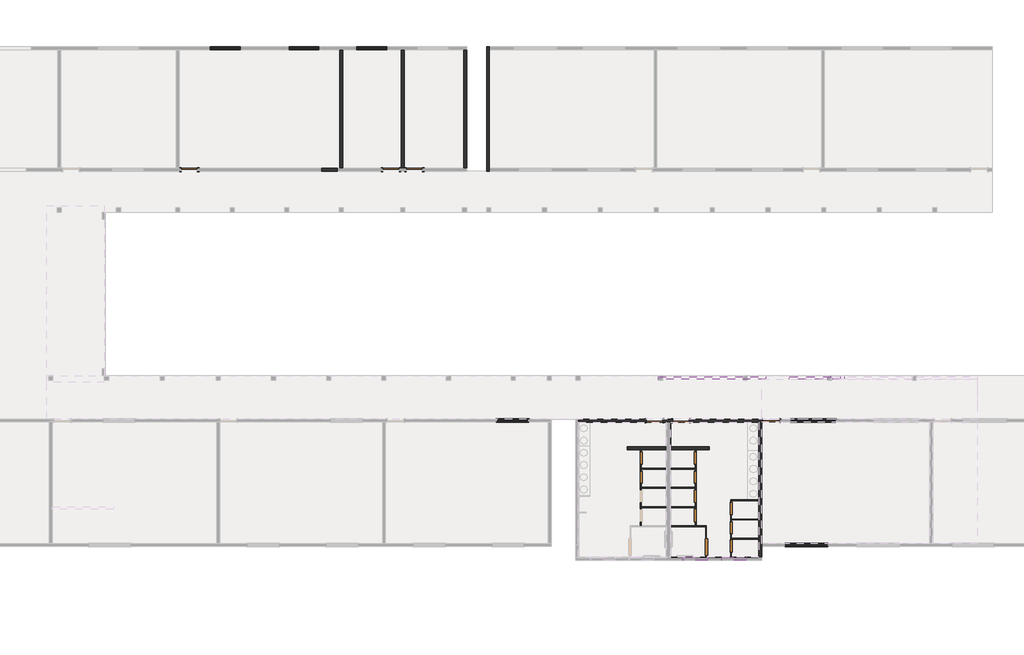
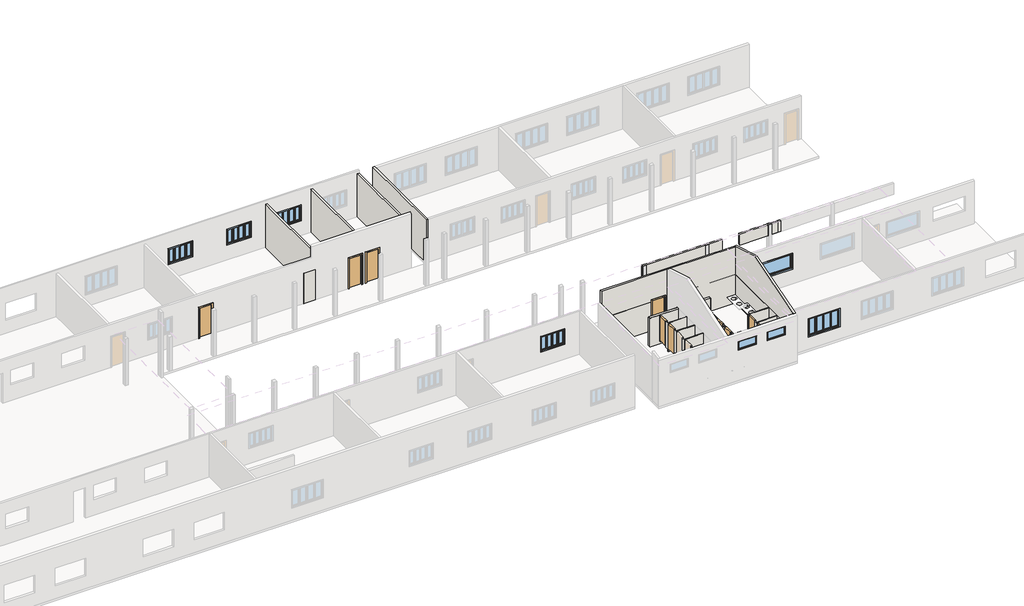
# One storey, part 3 of 5: 40 walls, 16 doors, 8 windows.
"""IFC4 building model written with IfcOpenShell, lengths in millimetres."""

from ifc_helpers import new_model, si_unit, frame, origin, origin_with_axes, place, context, project, spatial, polyline, outline, extrude, faceted_brep, transform, mapped, element, save
from components import m_single_flush_0800_x_2100mm_0fb022da, m_single_flush_0800_x_2100mm_21ec692d, m_single_flush_0813_x_2134mm_3ea254d8, m_single_flush_0813_x_2134mm_1bf23ccc, porta_sanitario_0600_x_2100mm_b459be9e, porta_sanitario_0600_x_2100mm_3094f655, porta_sanitario_08013_x_200134mm_2_4930843f, casement_quad_w_trim_1500_x_1000_mm_b7d6dd6f, casement_quad_w_trim_1500_x_1000_mm_8fcab8cd, casement_quad_w_trim_2000_x_1000_mm_c4cc244c, janela_93b8da09, transom_with_trim_2100_x_100mm_c4035aed

model = new_model("IFC4")

# Units and contexts
model_context = context("Model", 3, world=origin())
ifc_project = project(units=[si_unit("LENGTHUNIT", "METRE", prefix="MILLI")], contexts=[model_context])

# Site, building, storey
site = spatial("IfcSite", under=ifc_project)
building = spatial("IfcBuilding", under=site)
storey = spatial("IfcBuildingStorey", under=building, Name="Planta de implantação", Elevation=0.0)

# Doors
placement = place(None, origin())
m_single_flush_0800_x_2100mm_shape = m_single_flush_0800_x_2100mm_0fb022da(model_context)
element("IfcDoor", 1, ObjectType="M_Single-Flush : 0800 x 2100mm", at=placement, inside=storey, context=model_context, shape_type="MappedRepresentation", body=[
    mapped(m_single_flush_0800_x_2100mm_shape, transform((10269.7647365, -10453.3222718, 0.0), x_axis=(1.0, 0.0, 0.0), y_axis=(0.0, 1.0, 0.0), z_axis=(0.0, 0.0, 1.0))),
])
element("IfcDoor", 2, ObjectType="M_Single-Flush : 0800 x 2100mm", at=placement, inside=storey, context=model_context, shape_type="MappedRepresentation", body=[
    mapped(m_single_flush_0800_x_2100mm_shape, transform((28814.7647365, -22683.3222718, 0.0), x_axis=(-1.0, 0.0, 0.0), y_axis=(0.0, -1.0, 0.0), z_axis=(0.0, 0.0, 1.0))),
])
m_single_flush_0800_x_2100mm_2_shape = m_single_flush_0800_x_2100mm_21ec692d(model_context)
element("IfcDoor", 3, ObjectType="M_Single-Flush : 0800 x 2100mm", at=placement, inside=storey, context=model_context, shape_type="MappedRepresentation", body=[
    mapped(m_single_flush_0800_x_2100mm_2_shape, transform((419.7647365, -10453.3222718, 0.0), x_axis=(-1.0, 0.0, 0.0), y_axis=(0.0, -1.0, 0.0), z_axis=(0.0, 0.0, 1.0))),
])
element("IfcDoor", 4, ObjectType="M_Single-Flush : 0800 x 2100mm", at=placement, inside=storey, context=model_context, shape_type="MappedRepresentation", body=[
    mapped(m_single_flush_0800_x_2100mm_2_shape, transform((11399.7647365, -10453.3222718, 0.0), x_axis=(-1.0, 0.0, 0.0), y_axis=(0.0, -1.0, 0.0), z_axis=(0.0, 0.0, 1.0))),
])
m_single_flush_0813_x_2134mm_shape = m_single_flush_0813_x_2134mm_3ea254d8(model_context)
element("IfcDoor", 5, ObjectType="M_Single-Flush : 0813 x 2134mm", at=placement, inside=storey, context=model_context, shape_type="MappedRepresentation", body=[
    mapped(m_single_flush_0813_x_2134mm_shape, transform((24416.2647365, -22693.3222718, 0.0), x_axis=(-1.0, 0.0, 0.0), y_axis=(0.0, -1.0, 0.0), z_axis=(0.0, 0.0, 1.0))),
])
m_single_flush_0813_x_2134mm_2_shape = m_single_flush_0813_x_2134mm_1bf23ccc(model_context)
element("IfcDoor", 6, ObjectType="M_Single-Flush : 0813 x 2134mm", at=placement, inside=storey, context=model_context, shape_type="MappedRepresentation", body=[
    mapped(m_single_flush_0813_x_2134mm_2_shape, transform((23133.2647365, -22693.3222718, 0.0), x_axis=(1.0, 0.0, 0.0), y_axis=(0.0, 1.0, 0.0), z_axis=(0.0, 0.0, 1.0))),
])
porta_sanitario_0600_x_2100mm_shape = porta_sanitario_0600_x_2100mm_b459be9e(model_context)
element("IfcDoor", 7, ObjectType="Porta-sanitario : 0600 x 2100mm", at=placement, inside=storey, context=model_context, shape_type="MappedRepresentation", body=[
    mapped(porta_sanitario_0600_x_2100mm_shape, transform((25139.7647365, -24518.3222718, 0.0), x_axis=(0.0, 1.0, 0.0), y_axis=(-1.0, 0.0, 0.0), z_axis=(0.0, 0.0, 1.0))),
])
element("IfcDoor", 8, ObjectType="Porta-sanitario : 0600 x 2100mm", at=placement, inside=storey, context=model_context, shape_type="MappedRepresentation", body=[
    mapped(porta_sanitario_0600_x_2100mm_shape, transform((25139.7647365, -25458.3222718, 0.0), x_axis=(0.0, 1.0, 0.0), y_axis=(-1.0, 0.0, 0.0), z_axis=(0.0, 0.0, 1.0))),
])
element("IfcDoor", 9, ObjectType="Porta-sanitario : 0600 x 2100mm", at=placement, inside=storey, context=model_context, shape_type="MappedRepresentation", body=[
    mapped(porta_sanitario_0600_x_2100mm_shape, transform((25139.7647365, -26388.3222718, 0.0), x_axis=(0.0, 1.0, 0.0), y_axis=(-1.0, 0.0, 0.0), z_axis=(0.0, 0.0, 1.0))),
])
element("IfcDoor", 10, ObjectType="Porta-sanitario : 0600 x 2100mm", at=placement, inside=storey, context=model_context, shape_type="MappedRepresentation", body=[
    mapped(porta_sanitario_0600_x_2100mm_shape, transform((26854.7647365, -28818.3222718, 0.0), x_axis=(0.0, -1.0, 0.0), y_axis=(1.0, 0.0, 0.0), z_axis=(0.0, 0.0, 1.0))),
])
element("IfcDoor", 11, ObjectType="Porta-sanitario : 0600 x 2100mm", at=placement, inside=storey, context=model_context, shape_type="MappedRepresentation", body=[
    mapped(porta_sanitario_0600_x_2100mm_shape, transform((26854.7647365, -27928.3222718, 0.0), x_axis=(0.0, -1.0, 0.0), y_axis=(1.0, 0.0, 0.0), z_axis=(0.0, 0.0, 1.0))),
])
element("IfcDoor", 12, ObjectType="Porta-sanitario : 0600 x 2100mm", at=placement, inside=storey, context=model_context, shape_type="MappedRepresentation", body=[
    mapped(porta_sanitario_0600_x_2100mm_shape, transform((26854.7647365, -26988.3222718, 0.0), x_axis=(0.0, -1.0, 0.0), y_axis=(1.0, 0.0, 0.0), z_axis=(0.0, 0.0, 1.0))),
])
element("IfcDoor", 13, ObjectType="Porta-sanitario : 0600 x 2100mm", at=placement, inside=storey, context=model_context, shape_type="MappedRepresentation", body=[
    mapped(porta_sanitario_0600_x_2100mm_shape, transform((25139.7647365, -27328.3222718, 0.0), x_axis=(0.0, 1.0, 0.0), y_axis=(-1.0, 0.0, 0.0), z_axis=(0.0, 0.0, 1.0))),
])
porta_sanitario_0600_x_2100mm_2_shape = porta_sanitario_0600_x_2100mm_3094f655(model_context)
element("IfcDoor", 14, ObjectType="Porta-sanitario : 0600 x 2100mm", at=placement, inside=storey, context=model_context, shape_type="MappedRepresentation", body=[
    mapped(porta_sanitario_0600_x_2100mm_2_shape, transform((22449.7647365, -24518.3222718, 0.0), x_axis=(0.0, 1.0, 0.0), y_axis=(-1.0, 0.0, 0.0), z_axis=(0.0, 0.0, 1.0))),
])
element("IfcDoor", 15, ObjectType="Porta-sanitario : 0600 x 2100mm", at=placement, inside=storey, context=model_context, shape_type="MappedRepresentation", body=[
    mapped(porta_sanitario_0600_x_2100mm_2_shape, transform((22449.7647365, -25458.3222718, 0.0), x_axis=(0.0, 1.0, 0.0), y_axis=(-1.0, 0.0, 0.0), z_axis=(0.0, 0.0, 1.0))),
])
porta_sanitario_08013_x_200134mm_2_shape = porta_sanitario_08013_x_200134mm_2_4930843f(model_context)
element("IfcDoor", 16, ObjectType="Porta-sanitario : 08013 x 200134mm 2", at=placement, inside=storey, context=model_context, shape_type="MappedRepresentation", body=[
    mapped(porta_sanitario_08013_x_200134mm_2_shape, transform((25639.7647365, -28871.8222718, 0.0), x_axis=(0.0, -1.0, 0.0), y_axis=(1.0, 0.0, 0.0), z_axis=(0.0, 0.0, 1.0))),
])

# Walls
element("IfcWall", 17, ObjectType="Generic - azuleijo", at=placement, inside=storey, context=model_context, shape_type="SweptSolid", body=[
    extrude(outline(polyline([(28214.7647365, -22768.3222718), (28214.7647365, -29368.3222718), (28204.7647365, -29368.3222718), (28204.7647365, -22768.3222718), (28214.7647365, -22768.3222718)])), origin_with_axes(), (0.0, 0.0, 1.0), 2000.0),
])
element("IfcWall", 18, ObjectType="Generic - azuleijo", at=placement, inside=storey, context=model_context, shape_type="SweptSolid", body=[
    extrude(outline(polyline([(23909.7647365, -29368.3222718), (28214.7647365, -29368.3222718), (28214.7647365, -29378.3222718), (23909.7647365, -29378.3222718), (23909.7647365, -29368.3222718)])), origin_with_axes(), (0.0, 0.0, 1.0), 2000.0),
])
element("IfcWall", 19, ObjectType="Generic - azuleijo", at=placement, inside=storey, context=model_context, shape_type="SweptSolid", body=[
    extrude(outline(polyline([(24757.7647365, -22758.3222718), (28214.7647365, -22758.3222718), (28214.7647365, -22768.3222718), (24757.7647365, -22768.3222718), (24757.7647365, -22758.3222718)])), origin_with_axes(), (0.0, 0.0, 1.0), 2000.0),
])
element("IfcWall", 20, ObjectType="Generic - azuleijo", at=placement, inside=storey, context=model_context, shape_type="SweptSolid", body=[
    extrude(outline(polyline([(23909.7647365, -22758.3222718), (23969.7647365, -22758.3222718), (23969.7647365, -22768.3222718), (23909.7647365, -22768.3222718), (23909.7647365, -22758.3222718)])), origin_with_axes(), (0.0, 0.0, 1.0), 2000.0),
])
element("IfcWall", 21, ObjectType="Generic - azuleijo", at=placement, inside=storey, context=model_context, shape_type="SweptSolid", body=[
    extrude(outline(polyline([(23639.7647365, -22758.3222718), (23709.7647365, -22758.3222718), (23709.7647365, -22768.3222718), (23639.7647365, -22768.3222718), (23639.7647365, -22758.3222718)])), origin_with_axes(), (0.0, 0.0, 1.0), 2000.0),
])
element("IfcWall", 22, ObjectType="Generic - azuleijo", at=placement, inside=storey, context=model_context, shape_type="SweptSolid", body=[
    extrude(outline(polyline([(19409.7647365, -22758.3222718), (22725.0732804, -22758.3222718), (22725.0732804, -22768.3222718), (19409.7647365, -22768.3222718), (19409.7647365, -22758.3222718)])), origin_with_axes(), (0.0, 0.0, 1.0), 2000.0),
])
element("IfcWall", 23, ObjectType="Generic - azuleijo", at=placement, inside=storey, context=model_context, shape_type="Brep", body=[
    faceted_brep([(23914.7647365, -23978.3222718, 0.0), (25784.7647365, -23978.3222718, 0.0), (25794.7647365, -23978.3222718, 0.0), (25794.7647365, -23978.3222718, 2000.0), (25784.7647365, -23978.3222718, 2000.0), (23914.7647365, -23978.3222718, 2000.0), (23914.7647365, -23968.3222718, 0.0), (23914.7647365, -23968.3222718, 2000.0), (25794.7647365, -23968.3222718, 2000.0), (25794.7647365, -23968.3222718, 0.0)], [[[0, 1, 2, 3, 4, 5]], [[6, 7, 8, 9]], [[2, 1, 0, 6, 9]], [[5, 4, 3, 8, 7]], [[3, 2, 9, 8]], [[0, 5, 7, 6]]]),
])
element("IfcWall", 24, ObjectType="Generic - azuleijo", at=placement, inside=storey, context=model_context, shape_type="Brep", body=[
    faceted_brep([(25784.7647365, -23978.3222718, 0.0), (25784.7647365, -24108.3222718, 0.0), (25784.7647365, -24118.3222718, 0.0), (25784.7647365, -24118.3222718, 2000.0), (25784.7647365, -24108.3222718, 2000.0), (25784.7647365, -23978.3222718, 2000.0), (25794.7647365, -23978.3222718, 0.0), (25794.7647365, -23978.3222718, 2000.0), (25794.7647365, -24118.3222718, 2000.0), (25794.7647365, -24118.3222718, 0.0)], [[[0, 1, 2, 3, 4, 5]], [[6, 7, 8, 9]], [[2, 1, 0, 6, 9]], [[5, 4, 3, 8, 7]], [[3, 2, 9, 8]], [[0, 5, 7, 6]]]),
])
element("IfcWall", 25, ObjectType="Generic - azuleijo", at=placement, inside=storey, context=model_context, shape_type="SweptSolid", body=[
    extrude(outline(polyline([(23914.7647365, -24108.3222718), (25784.7647365, -24108.3222718), (25784.7647365, -24118.3222718), (23914.7647365, -24118.3222718), (23914.7647365, -24108.3222718)])), origin_with_axes(), (0.0, 0.0, 1.0), 2000.0),
])
element("IfcWall", 26, ObjectType="Generic - azuleijo", at=placement, inside=storey, context=model_context, shape_type="Brep", body=[
    faceted_brep([(23699.7647365, -24108.3222718, 0.0), (21804.7647365, -24108.3222718, 0.0), (21794.7647365, -24108.3222718, 0.0), (21794.7647365, -24108.3222718, 2000.0), (21804.7647365, -24108.3222718, 2000.0), (23699.7647365, -24108.3222718, 2000.0), (23699.7647365, -24118.3222718, 0.0), (23699.7647365, -24118.3222718, 2000.0), (21794.7647365, -24118.3222718, 2000.0), (21794.7647365, -24118.3222718, 0.0)], [[[0, 1, 2, 3, 4, 5]], [[6, 7, 8, 9]], [[2, 1, 0, 6, 9]], [[5, 4, 3, 8, 7]], [[3, 2, 9, 8]], [[0, 5, 7, 6]]]),
])
element("IfcWall", 27, ObjectType="Generic - azuleijo", at=placement, inside=storey, context=model_context, shape_type="Brep", body=[
    faceted_brep([(21804.7647365, -24108.3222718, 0.0), (21804.7647365, -23978.3222718, 0.0), (21804.7647365, -23968.3222718, 0.0), (21804.7647365, -23968.3222718, 2000.0), (21804.7647365, -23978.3222718, 2000.0), (21804.7647365, -24108.3222718, 2000.0), (21794.7647365, -24108.3222718, 0.0), (21794.7647365, -24108.3222718, 2000.0), (21794.7647365, -23968.3222718, 2000.0), (21794.7647365, -23968.3222718, 0.0)], [[[0, 1, 2, 3, 4, 5]], [[6, 7, 8, 9]], [[2, 1, 0, 6, 9]], [[5, 4, 3, 8, 7]], [[3, 2, 9, 8]], [[0, 5, 7, 6]]]),
])
element("IfcWall", 28, ObjectType="Generic - azuleijo", at=placement, inside=storey, context=model_context, shape_type="SweptSolid", body=[
    extrude(outline(polyline([(23714.7647365, -23978.3222718), (21804.7647365, -23978.3222718), (21804.7647365, -23968.3222718), (23714.7647365, -23968.3222718), (23714.7647365, -23978.3222718)])), origin_with_axes(), (0.0, 0.0, 1.0), 2000.0),
])
element("IfcWall", 29, ObjectType="Generic - azuleijo", at=placement, inside=storey, context=model_context, shape_type="Brep", body=[
    faceted_brep([(23914.7647365, -23978.3222718, 0.0), (23914.7647365, -23968.3222718, 0.0), (23914.7647365, -22768.3222718, 0.0), (23914.7647365, -22768.3222718, 2000.0), (23914.7647365, -23968.3222718, 2000.0), (23914.7647365, -23978.3222718, 2000.0), (23904.7647365, -23978.3222718, 0.0), (23904.7647365, -23978.3222718, 2000.0), (23904.7647365, -22768.3222718, 2000.0), (23904.7647365, -22768.3222718, 0.0), (23909.7647365, -23978.3222718, 0.0), (23909.7647365, -22768.3222718, 2000.0), (23909.7647365, -23978.3222718, 2000.0)], [[[0, 1, 2, 3, 4, 5]], [[6, 7, 8, 9]], [[2, 1, 0, 10, 6, 9]], [[5, 4, 3, 11, 8, 7, 12]], [[0, 5, 12, 7, 6, 10]], [[3, 2, 9, 8, 11]]]),
])
element("IfcWall", 30, ObjectType="Generic - azuleijo", at=placement, inside=storey, context=model_context, shape_type="Brep", body=[
    faceted_brep([(23724.7647365, -23978.3222718, 0.0), (23724.7647365, -22768.3222718, 0.0), (23724.7647365, -22768.3222718, 2000.0), (23724.7647365, -23978.3222718, 2000.0), (23714.7647365, -23978.3222718, 0.0), (23714.7647365, -23978.3222718, 2000.0), (23714.7647365, -23968.3222718, 2000.0), (23714.7647365, -22768.3222718, 2000.0), (23714.7647365, -22768.3222718, 0.0), (23714.7647365, -23968.3222718, 0.0)], [[[0, 1, 2, 3]], [[4, 5, 6, 7, 8, 9]], [[1, 0, 4, 9, 8]], [[3, 2, 7, 6, 5]], [[0, 3, 5, 4]], [[2, 1, 8, 7]]]),
])
element("IfcWall", 31, ObjectType="Generic - 130mm", at=placement, inside=storey, context=model_context, shape_type="SweptSolid", body=[
    extrude(outline(polyline([(7769.7647365, -10388.3222718), (7769.7647365, -4588.3222718), (7899.7647365, -4588.3222718), (7899.7647365, -10388.3222718), (7769.7647365, -10388.3222718)])), origin_with_axes(), (0.0, 0.0, 1.0), 3000.0),
])
element("IfcWall", 32, ObjectType="Generic - 130mm", at=placement, inside=storey, context=model_context, shape_type="SweptSolid", body=[
    extrude(outline(polyline([(10769.7647365, -10388.3222718), (10769.7647365, -4588.3222718), (10899.7647365, -4588.3222718), (10899.7647365, -10388.3222718), (10769.7647365, -10388.3222718)])), origin_with_axes(), (0.0, 0.0, 1.0), 3000.0),
])
element("IfcWall", 33, ObjectType="Generic - 130mm", at=placement, inside=storey, context=model_context, shape_type="SweptSolid", body=[
    extrude(outline(polyline([(13819.7647365, -10388.3222718), (13819.7647365, -4588.3222718), (13949.7647365, -4588.3222718), (13949.7647365, -10388.3222718), (13819.7647365, -10388.3222718)])), origin_with_axes(), (0.0, 0.0, 1.0), 3000.0),
])
element("IfcWall", 34, ObjectType="Generic - 130mm", at=placement, inside=storey, context=model_context, shape_type="Brep", body=[
    faceted_brep([(14929.7647365, -4458.3222718, 0.0), (14929.7647365, -10518.3222718, 0.0), (14929.7647365, -10518.3222718, 3000.0), (14929.7647365, -4458.3222718, 3000.0), (15059.7647365, -4458.3222718, 0.0), (15059.7647365, -4458.3222718, 3000.0), (15059.7647365, -4588.3222718, 3000.0), (15059.7647365, -10388.3222718, 3000.0), (15059.7647365, -10518.3222718, 3000.0), (15059.7647365, -10518.3222718, 0.0), (15059.7647365, -10388.3222718, 0.0), (15059.7647365, -4588.3222718, 0.0)], [[[0, 1, 2, 3]], [[4, 5, 6, 7, 8, 9, 10, 11]], [[1, 0, 4, 11, 10, 9]], [[3, 2, 8, 7, 6, 5]], [[0, 3, 5, 4]], [[2, 1, 9, 8]]]),
])
element("IfcWall", 35, ObjectType="Generic - 130mm", at=placement, inside=storey, context=model_context, shape_type="SweptSolid", body=[
    extrude(outline(polyline([(32396.4314031, -20683.3222718), (31572.2647365, -20683.3222718), (31572.2647365, -20553.3222718), (32396.4314031, -20553.3222718), (32396.4314031, -20683.3222718)])), frame((0.0, 0.0, 2250.0), z_axis=(0.0, 0.0, 1.0), x_axis=(1.0, 0.0, 0.0)), (0.0, 0.0, 1.0), 750.0),
])
element("IfcWall", 36, ObjectType="Generic - 130mm", at=placement, inside=storey, context=model_context, shape_type="SweptSolid", body=[
    extrude(outline(polyline([(29698.0980698, -20553.3222718), (32196.4314031, -20553.3222718), (32196.4314031, -20683.3222718), (29698.0980698, -20683.3222718), (29698.0980698, -20553.3222718)])), frame((0.0, 0.0, 2250.0), z_axis=(0.0, 0.0, 1.0), x_axis=(1.0, 0.0, 0.0)), (0.0, 0.0, 1.0), 750.0),
])
element("IfcWall", 37, ObjectType="Generic - 130mm", at=placement, inside=storey, context=model_context, shape_type="SweptSolid", body=[
    extrude(outline(polyline([(28554.7647365, -20683.3222718), (23317.2647365, -20683.3222718), (23317.2647365, -20553.3222718), (28554.7647365, -20553.3222718), (28554.7647365, -20683.3222718)])), frame((0.0, 0.0, 2250.0), z_axis=(0.0, 0.0, 1.0), x_axis=(1.0, 0.0, 0.0)), (0.0, 0.0, 1.0), 750.0),
])
element("IfcWall", 38, ObjectType="Generic - 130mm", at=placement, inside=storey, context=model_context, shape_type="SweptSolid", body=[
    extrude(outline(polyline([(6869.7647365, -10518.3222718), (6869.7647365, -10388.3222718), (7669.7647365, -10388.3222718), (7669.7647365, -10518.3222718), (6869.7647365, -10518.3222718)])), origin_with_axes(), (0.0, 0.0, 1.0), 2100.0),
])
element("IfcWall", 39, ObjectType="Generic - 150mm", at=placement, inside=storey, context=model_context, shape_type="Brep", body=[
    faceted_brep([(28364.7647365, -29368.3222718, 0.0), (28364.7647365, -28828.3222718, 0.0), (28364.7647365, -28698.3222718, 0.0), (28364.7647365, -22748.3222718, 0.0), (28364.7647365, -22618.3222718, 0.0), (28364.7647365, -22618.3222718, 3000.0), (28364.7647365, -22618.3222718, 3870.0), (28364.7647365, -24948.3222718, 4569.0), (28364.7647365, -29368.3222718, 3243.0), (28214.7647365, -29368.3222718, 0.0), (28214.7647365, -29368.3222718, 2000.0), (28214.7647365, -29368.3222718, 3243.0), (28214.7647365, -24948.3222718, 4569.0), (28214.7647365, -22768.3222718, 3915.0), (28214.7647365, -22618.3222718, 3870.0), (28214.7647365, -22618.3222718, 0.0), (28214.7647365, -22758.3222718, 0.0), (28214.7647365, -22768.3222718, 0.0), (28214.7647365, -26558.3222718, 0.0), (28214.7647365, -26598.3222718, 0.0), (28214.7647365, -27498.3222718, 0.0), (28214.7647365, -27538.3222718, 0.0), (28214.7647365, -28438.3222718, 0.0), (28214.7647365, -28478.3222718, 0.0)], [[[0, 1, 2, 3, 4, 5, 6, 7, 8]], [[9, 10, 11, 12, 13, 14, 15, 16, 17, 18, 19, 20, 21, 22, 23]], [[4, 3, 2, 1, 0, 9, 23, 22, 21, 20, 19, 18, 17, 16, 15]], [[0, 8, 11, 10, 9]], [[4, 15, 14, 6, 5]], [[8, 7, 12, 11]], [[7, 6, 14, 13, 12]]]),
])
element("IfcWall", 40, ObjectType="Generic - 150mm", at=placement, inside=storey, context=model_context, shape_type="Brep", body=[
    faceted_brep([(28214.7647365, -22618.3222718, 3870.0), (28214.7647365, -22618.3222718, 0.0), (24816.3147365, -22618.3222718, 0.0), (24816.3147365, -22618.3222718, 2100.0), (24016.2147365, -22618.3222718, 2100.0), (24016.2147365, -22618.3222718, 0.0), (23533.3147365, -22618.3222718, 0.0), (23533.3147365, -22618.3222718, 2100.0), (22733.2147365, -22618.3222718, 2100.0), (22733.2147365, -22618.3222718, 0.0), (19409.7647365, -22618.3222718, 0.0), (19409.7647365, -22618.3222718, 3000.0), (19409.7647365, -22618.3222718, 3870.0), (28214.7647365, -22768.3222718, 0.0), (28214.7647365, -22768.3222718, 2000.0), (28214.7647365, -22768.3222718, 3915.0), (23909.7647365, -22768.3222718, 3915.0), (23709.7647365, -22768.3222718, 3915.0), (19409.7647365, -22768.3222718, 3915.0), (19409.7647365, -22768.3222718, 2000.0), (19409.7647365, -22768.3222718, 0.0), (19419.7647365, -22768.3222718, 0.0), (22733.2147365, -22768.3222718, 0.0), (22733.2147365, -22768.3222718, 2100.0), (23533.3147365, -22768.3222718, 2100.0), (23533.3147365, -22768.3222718, 0.0), (23709.7647365, -22768.3222718, 0.0), (23714.7647365, -22768.3222718, 0.0), (23724.7647365, -22768.3222718, 0.0), (23904.7647365, -22768.3222718, 0.0), (23914.7647365, -22768.3222718, 0.0), (24016.2147365, -22768.3222718, 0.0), (24016.2147365, -22768.3222718, 2100.0), (24816.3147365, -22768.3222718, 2100.0), (24816.3147365, -22768.3222718, 0.0), (28204.7647365, -22768.3222718, 0.0)], [[[0, 1, 2, 3, 4, 5, 6, 7, 8, 9, 10, 11, 12]], [[13, 14, 15, 16, 17, 18, 19, 20, 21, 22, 23, 24, 25, 26, 27, 28, 29, 30, 31, 32, 33, 34, 35]], [[1, 13, 35, 34, 2]], [[20, 10, 9, 22, 21]], [[5, 31, 30, 29, 28, 27, 26, 25, 6]], [[13, 1, 0, 15, 14]], [[12, 11, 10, 20, 19, 18]], [[0, 12, 18, 17, 16, 15]], [[4, 32, 31, 5]], [[32, 4, 3, 33]], [[33, 3, 2, 34]], [[24, 7, 6, 25]], [[7, 24, 23, 8]], [[8, 23, 22, 9]]]),
])
element("IfcWall", 41, ObjectType="Generic - 150mm", at=placement, inside=storey, context=model_context, shape_type="Brep", body=[
    faceted_brep([(23909.7647365, -24118.3222718, 0.0), (25784.7647365, -24118.3222718, 0.0), (25784.7647365, -24118.3222718, 2000.0), (25159.7647365, -24118.3222718, 2000.0), (25119.7647365, -24118.3222718, 2000.0), (23909.7647365, -24118.3222718, 2000.0), (23909.7647365, -23968.3222718, 0.0), (23909.7647365, -23968.3222718, 2000.0), (25784.7647365, -23968.3222718, 2000.0), (25784.7647365, -23968.3222718, 0.0), (23909.7647365, -24108.3222718, 0.0), (23909.7647365, -23978.3222718, 0.0), (25784.7647365, -23978.3222718, 0.0), (25784.7647365, -23978.3222718, 2000.0)], [[[0, 1, 2, 3, 4, 5]], [[6, 7, 8, 9]], [[1, 0, 10, 11, 6, 9, 12]], [[5, 4, 3, 2, 13, 8, 7]], [[0, 5, 7, 6, 11, 10]], [[2, 1, 12, 9, 8, 13]]]),
])
element("IfcWall", 42, ObjectType="Generic - 150mm", at=placement, inside=storey, context=model_context, shape_type="Brep", body=[
    faceted_brep([(23709.7647365, -23968.3222718, 0.0), (21804.7647365, -23968.3222718, 0.0), (21804.7647365, -23968.3222718, 2000.0), (23709.7647365, -23968.3222718, 2000.0), (23709.7647365, -24118.3222718, 0.0), (23709.7647365, -24118.3222718, 2000.0), (22469.7647365, -24118.3222718, 2000.0), (22429.7647365, -24118.3222718, 2000.0), (21804.7647365, -24118.3222718, 2000.0), (21804.7647365, -24118.3222718, 0.0), (21804.7647365, -24108.3222718, 0.0), (21804.7647365, -24108.3222718, 2000.0)], [[[0, 1, 2, 3]], [[4, 5, 6, 7, 8, 9]], [[1, 0, 4, 9, 10]], [[3, 2, 11, 8, 7, 6, 5]], [[0, 3, 5, 4]], [[2, 1, 10, 9, 8, 11]]]),
])
element("IfcWall", 43, ObjectType="Generic - 40mm", at=placement, inside=storey, context=model_context, shape_type="SweptSolid", body=[
    extrude(outline(polyline([(0.0, 23909.7647365), (0.0, 24014.1609434), (200.0, 24214.1609434), (200.0, 24809.7647365), (0.0, 25009.7647365), (0.0, 25119.7647365), (2000.0, 25119.7647365), (2000.0, 23909.7647365), (0.0, 23909.7647365)])), frame((0.0, -26938.3222718, 0.0), z_axis=(0.0, 1.0, 0.0), x_axis=(0.0, 0.0, 1.0)), (0.0, 0.0, 1.0), 40.0),
])
element("IfcWall", 44, ObjectType="Generic - 40mm", at=placement, inside=storey, context=model_context, shape_type="SweptSolid", body=[
    extrude(outline(polyline([(0.0, 23909.7647365), (0.0, 24014.1609434), (200.0, 24214.1609434), (200.0, 24809.7647365), (0.0, 25009.7647365), (0.0, 25119.7647365), (2000.0, 25119.7647365), (2000.0, 23909.7647365), (0.0, 23909.7647365)])), frame((0.0, -25998.3222718, 0.0), z_axis=(0.0, 1.0, 0.0), x_axis=(0.0, 0.0, 1.0)), (0.0, 0.0, 1.0), 40.0),
])
element("IfcWall", 45, ObjectType="Generic - 40mm", at=placement, inside=storey, context=model_context, shape_type="SweptSolid", body=[
    extrude(outline(polyline([(0.0, 23909.7647365), (0.0, 24014.1609434), (200.0, 24214.1609434), (200.0, 24809.7647365), (0.0, 25009.7647365), (0.0, 25119.7647365), (2000.0, 25119.7647365), (2000.0, 23909.7647365), (0.0, 23909.7647365)])), frame((0.0, -25058.3222718, 0.0), z_axis=(0.0, 1.0, 0.0), x_axis=(0.0, 0.0, 1.0)), (0.0, 0.0, 1.0), 40.0),
])
element("IfcWall", 46, ObjectType="Generic - 40mm", at=placement, inside=storey, context=model_context, shape_type="Brep", body=[
    faceted_brep([(25119.7647365, -27838.3222718, 200.0), (25119.7647365, -27838.3222718, 2000.0), (25119.7647365, -27628.3222718, 2000.0), (25119.7647365, -27628.3222718, 200.0), (25159.7647365, -27838.3222718, 2000.0), (25159.7647365, -27838.3222718, 200.0), (25159.7647365, -27628.3222718, 200.0), (25159.7647365, -27628.3222718, 2000.0)], [[[0, 1, 2, 3]], [[4, 5, 6, 7]], [[5, 0, 3, 6]], [[1, 4, 7, 2]], [[1, 0, 5, 4]], [[3, 2, 7, 6]]]),
    faceted_brep([(25119.7647365, -24118.3222718, 2000.0), (25119.7647365, -24118.3222718, 200.0), (25119.7647365, -24218.3222718, 200.0), (25119.7647365, -24218.3222718, 2000.0), (25159.7647365, -24118.3222718, 200.0), (25159.7647365, -24118.3222718, 2000.0), (25159.7647365, -24218.3222718, 2000.0), (25159.7647365, -24218.3222718, 200.0)], [[[0, 1, 2, 3]], [[4, 5, 6, 7]], [[1, 4, 7, 2]], [[5, 0, 3, 6]], [[1, 0, 5, 4]], [[3, 2, 7, 6]]]),
    faceted_brep([(25119.7647365, -24818.3222718, 2000.0), (25119.7647365, -24818.3222718, 200.0), (25119.7647365, -25158.3222718, 200.0), (25119.7647365, -25158.3222718, 2000.0), (25119.7647365, -25058.3222718, 2000.0), (25119.7647365, -25018.3222718, 2000.0), (25159.7647365, -24818.3222718, 200.0), (25159.7647365, -24818.3222718, 2000.0), (25159.7647365, -25158.3222718, 2000.0), (25159.7647365, -25158.3222718, 200.0)], [[[0, 1, 2, 3, 4, 5]], [[6, 7, 8, 9]], [[1, 6, 9, 2]], [[7, 0, 5, 4, 3, 8]], [[1, 0, 7, 6]], [[3, 2, 9, 8]]]),
    faceted_brep([(25119.7647365, -25758.3222718, 2000.0), (25119.7647365, -25758.3222718, 200.0), (25119.7647365, -26088.3222718, 200.0), (25119.7647365, -26088.3222718, 2000.0), (25119.7647365, -25998.3222718, 2000.0), (25119.7647365, -25958.3222718, 2000.0), (25159.7647365, -25758.3222718, 200.0), (25159.7647365, -25758.3222718, 2000.0), (25159.7647365, -26088.3222718, 2000.0), (25159.7647365, -26088.3222718, 200.0)], [[[0, 1, 2, 3, 4, 5]], [[6, 7, 8, 9]], [[1, 6, 9, 2]], [[7, 0, 5, 4, 3, 8]], [[1, 0, 7, 6]], [[3, 2, 9, 8]]]),
    faceted_brep([(25119.7647365, -26688.3222718, 2000.0), (25119.7647365, -26688.3222718, 200.0), (25119.7647365, -27028.3222718, 200.0), (25119.7647365, -27028.3222718, 2000.0), (25119.7647365, -26938.3222718, 2000.0), (25119.7647365, -26898.3222718, 2000.0), (25159.7647365, -26688.3222718, 200.0), (25159.7647365, -26688.3222718, 2000.0), (25159.7647365, -27028.3222718, 2000.0), (25159.7647365, -27028.3222718, 200.0)], [[[0, 1, 2, 3, 4, 5]], [[6, 7, 8, 9]], [[1, 6, 9, 2]], [[7, 0, 5, 4, 3, 8]], [[1, 0, 7, 6]], [[3, 2, 9, 8]]]),
])
element("IfcWall", 47, ObjectType="Generic - 40mm", at=placement, inside=storey, context=model_context, shape_type="Brep", body=[
    faceted_brep([(26874.7647365, -26558.3222718, 200.0), (26874.7647365, -26558.3222718, 2000.0), (26874.7647365, -26598.3222718, 2000.0), (26874.7647365, -26688.3222718, 2000.0), (26874.7647365, -26688.3222718, 200.0), (26834.7647365, -26558.3222718, 2000.0), (26834.7647365, -26558.3222718, 200.0), (26834.7647365, -26688.3222718, 200.0), (26834.7647365, -26688.3222718, 2000.0)], [[[0, 1, 2, 3, 4]], [[5, 6, 7, 8]], [[6, 0, 4, 7]], [[1, 5, 8, 3, 2]], [[1, 0, 6, 5]], [[4, 3, 8, 7]]]),
    faceted_brep([(26874.7647365, -29368.3222718, 2000.0), (26874.7647365, -29368.3222718, 200.0), (26874.7647365, -29118.3222718, 200.0), (26874.7647365, -29118.3222718, 2000.0), (26834.7647365, -29368.3222718, 200.0), (26834.7647365, -29368.3222718, 2000.0), (26834.7647365, -29118.3222718, 2000.0), (26834.7647365, -29118.3222718, 200.0)], [[[0, 1, 2, 3]], [[4, 5, 6, 7]], [[1, 4, 7, 2]], [[5, 0, 3, 6]], [[1, 0, 5, 4]], [[3, 2, 7, 6]]]),
    faceted_brep([(26874.7647365, -28518.3222718, 2000.0), (26874.7647365, -28518.3222718, 200.0), (26874.7647365, -28228.3222718, 200.0), (26874.7647365, -28228.3222718, 2000.0), (26874.7647365, -28438.3222718, 2000.0), (26874.7647365, -28478.3222718, 2000.0), (26834.7647365, -28518.3222718, 200.0), (26834.7647365, -28518.3222718, 2000.0), (26834.7647365, -28228.3222718, 2000.0), (26834.7647365, -28228.3222718, 200.0)], [[[0, 1, 2, 3, 4, 5]], [[6, 7, 8, 9]], [[1, 6, 9, 2]], [[7, 0, 5, 4, 3, 8]], [[1, 0, 7, 6]], [[3, 2, 9, 8]]]),
    faceted_brep([(26874.7647365, -27628.3222718, 2000.0), (26874.7647365, -27628.3222718, 200.0), (26874.7647365, -27288.3222718, 200.0), (26874.7647365, -27288.3222718, 2000.0), (26874.7647365, -27498.3222718, 2000.0), (26874.7647365, -27538.3222718, 2000.0), (26834.7647365, -27628.3222718, 200.0), (26834.7647365, -27628.3222718, 2000.0), (26834.7647365, -27288.3222718, 2000.0), (26834.7647365, -27288.3222718, 200.0)], [[[0, 1, 2, 3, 4, 5]], [[6, 7, 8, 9]], [[1, 6, 9, 2]], [[7, 0, 5, 4, 3, 8]], [[1, 0, 7, 6]], [[3, 2, 9, 8]]]),
])
element("IfcWall", 48, ObjectType="Generic - 40mm", at=placement, inside=storey, context=model_context, shape_type="Brep", body=[
    faceted_brep([(26874.7647365, -26598.3222718, 0.0), (26979.3887002, -26598.3222718, 0.0), (27177.3785989, -26598.3222718, 197.9898987), (27912.3785989, -26598.3222718, 197.9898987), (28110.3684976, -26598.3222718, 0.0), (28214.7647365, -26598.3222718, 0.0), (28214.7647365, -26598.3222718, 2000.0), (26874.7647365, -26598.3222718, 2000.0), (26874.7647365, -26558.3222718, 0.0), (26874.7647365, -26558.3222718, 200.0), (26874.7647365, -26558.3222718, 2000.0), (28214.7647365, -26558.3222718, 2000.0), (28214.7647365, -26558.3222718, 0.0), (28110.3684976, -26558.3222718, 0.0), (27912.3785989, -26558.3222718, 197.9898987), (27177.3785989, -26558.3222718, 197.9898987), (26979.3887002, -26558.3222718, 0.0)], [[[0, 1, 2, 3, 4, 5, 6, 7]], [[8, 9, 10, 11, 12, 13, 14, 15, 16]], [[1, 0, 8, 16]], [[2, 1, 16, 15]], [[3, 2, 15, 14]], [[4, 3, 14, 13]], [[5, 4, 13, 12]], [[7, 6, 11, 10]], [[0, 7, 10, 9, 8]], [[6, 5, 12, 11]]]),
])
element("IfcWall", 49, ObjectType="Generic - 40mm", at=placement, inside=storey, context=model_context, shape_type="SweptSolid", body=[
    extrude(outline(polyline([(0.0, 26874.7647365), (0.0, 26984.7647365), (200.0, 27184.7647365), (200.0, 27914.7647365), (0.0, 28114.7647365), (0.0, 28214.7647365), (2000.0, 28214.7647365), (2000.0, 26874.7647365), (0.0, 26874.7647365)])), frame((0.0, -27538.3222718, 0.0), z_axis=(0.0, 1.0, 0.0), x_axis=(0.0, 0.0, 1.0)), (0.0, 0.0, 1.0), 40.0),
])
element("IfcWall", 50, ObjectType="Generic - 40mm", at=placement, inside=storey, context=model_context, shape_type="SweptSolid", body=[
    extrude(outline(polyline([(0.0, 26874.7647365), (0.0, 26984.7647365), (200.0, 27184.7647365), (200.0, 27914.7647365), (0.0, 28114.7647365), (0.0, 28214.7647365), (2000.0, 28214.7647365), (2000.0, 26874.7647365), (0.0, 26874.7647365)])), frame((0.0, -28478.3222718, 0.0), z_axis=(0.0, 1.0, 0.0), x_axis=(0.0, 0.0, 1.0)), (0.0, 0.0, 1.0), 40.0),
])
element("IfcWall", 51, ObjectType="Generic - 40mm", at=placement, inside=storey, context=model_context, shape_type="Brep", body=[
    faceted_brep([(23909.7647365, -27878.3222718, 0.0), (24014.1609753, -27878.3222718, 0.0), (24214.1609753, -27878.3222718, 200.0), (25349.7647365, -27878.3222718, 200.0), (25549.7647365, -27878.3222718, 0.0), (25619.7647365, -27878.3222718, 0.0), (25619.7647365, -27878.3222718, 2000.0), (23909.7647365, -27878.3222718, 2000.0), (23909.7647365, -27838.3222718, 0.0), (23909.7647365, -27838.3222718, 2000.0), (25119.7647365, -27838.3222718, 2000.0), (25159.7647365, -27838.3222718, 2000.0), (25619.7647365, -27838.3222718, 2000.0), (25619.7647365, -27838.3222718, 200.0), (25619.7647365, -27838.3222718, 0.0), (25549.7647365, -27838.3222718, 0.0), (25349.7647365, -27838.3222718, 200.0), (25159.7647365, -27838.3222718, 200.0), (25119.7647365, -27838.3222718, 200.0), (24214.1609753, -27838.3222718, 200.0), (24014.1609753, -27838.3222718, 0.0)], [[[0, 1, 2, 3, 4, 5, 6, 7]], [[8, 9, 10, 11, 12, 13, 14, 15, 16, 17, 18, 19, 20]], [[1, 0, 8, 20]], [[2, 1, 20, 19]], [[3, 2, 19, 18, 17, 16]], [[4, 3, 16, 15]], [[5, 4, 15, 14]], [[7, 6, 12, 11, 10, 9]], [[0, 7, 9, 8]], [[6, 5, 14, 13, 12]]]),
])
element("IfcWall", 52, ObjectType="Generic - 40mm", at=placement, inside=storey, context=model_context, shape_type="Brep", body=[
    faceted_brep([(25619.7647365, -29368.3222718, 200.0), (25619.7647365, -29368.3222718, 2000.0), (25619.7647365, -29271.8722718, 2000.0), (25619.7647365, -29271.8722718, 200.0), (25659.7647365, -29368.3222718, 2000.0), (25659.7647365, -29368.3222718, 200.0), (25659.7647365, -29271.8722718, 200.0), (25659.7647365, -29271.8722718, 2000.0)], [[[0, 1, 2, 3]], [[4, 5, 6, 7]], [[5, 0, 3, 6]], [[1, 4, 7, 2]], [[1, 0, 5, 4]], [[3, 2, 7, 6]]]),
    faceted_brep([(25619.7647365, -27838.3222718, 2000.0), (25619.7647365, -27838.3222718, 200.0), (25619.7647365, -28471.7722718, 200.0), (25619.7647365, -28471.7722718, 2000.0), (25619.7647365, -27878.3222718, 2000.0), (25659.7647365, -27838.3222718, 200.0), (25659.7647365, -27838.3222718, 2000.0), (25659.7647365, -28471.7722718, 2000.0), (25659.7647365, -28471.7722718, 200.0)], [[[0, 1, 2, 3, 4]], [[5, 6, 7, 8]], [[1, 5, 8, 2]], [[6, 0, 4, 3, 7]], [[1, 0, 6, 5]], [[3, 2, 8, 7]]]),
])
element("IfcWall", 53, ObjectType="Generic - 40mm", at=placement, inside=storey, context=model_context, shape_type="Brep", body=[
    faceted_brep([(22429.7647365, -24118.3222718, 2000.0), (22429.7647365, -24118.3222718, 200.0), (22429.7647365, -24218.3222718, 200.0), (22429.7647365, -24218.3222718, 2000.0), (22469.7647365, -24118.3222718, 200.0), (22469.7647365, -24118.3222718, 2000.0), (22469.7647365, -24218.3222718, 2000.0), (22469.7647365, -24218.3222718, 200.0)], [[[0, 1, 2, 3]], [[4, 5, 6, 7]], [[1, 4, 7, 2]], [[5, 0, 3, 6]], [[1, 0, 5, 4]], [[3, 2, 7, 6]]]),
    faceted_brep([(22429.7647365, -27838.3222718, 200.0), (22429.7647365, -27838.3222718, 2000.0), (22429.7647365, -27628.3222718, 2000.0), (22429.7647365, -27628.3222718, 200.0), (22469.7647365, -27838.3222718, 2000.0), (22469.7647365, -27838.3222718, 200.0), (22469.7647365, -27628.3222718, 200.0), (22469.7647365, -27628.3222718, 2000.0)], [[[0, 1, 2, 3]], [[4, 5, 6, 7]], [[5, 0, 3, 6]], [[1, 4, 7, 2]], [[1, 0, 5, 4]], [[3, 2, 7, 6]]]),
    faceted_brep([(22429.7647365, -24818.3222718, 2000.0), (22429.7647365, -24818.3222718, 200.0), (22429.7647365, -25158.3222718, 200.0), (22429.7647365, -25158.3222718, 2000.0), (22469.7647365, -24818.3222718, 200.0), (22469.7647365, -24818.3222718, 2000.0), (22469.7647365, -25018.3222718, 2000.0), (22469.7647365, -25058.3222718, 2000.0), (22469.7647365, -25158.3222718, 2000.0), (22469.7647365, -25158.3222718, 200.0)], [[[0, 1, 2, 3]], [[4, 5, 6, 7, 8, 9]], [[1, 4, 9, 2]], [[5, 0, 3, 8, 7, 6]], [[1, 0, 5, 4]], [[3, 2, 9, 8]]]),
    faceted_brep([(22429.7647365, -25758.3222718, 2000.0), (22429.7647365, -25758.3222718, 200.0), (22429.7647365, -26088.3222718, 200.0), (22429.7647365, -26088.3222718, 2000.0), (22469.7647365, -25758.3222718, 200.0), (22469.7647365, -25758.3222718, 2000.0), (22469.7647365, -25958.3222718, 2000.0), (22469.7647365, -25998.3222718, 2000.0), (22469.7647365, -26088.3222718, 2000.0), (22469.7647365, -26088.3222718, 200.0)], [[[0, 1, 2, 3]], [[4, 5, 6, 7, 8, 9]], [[1, 4, 9, 2]], [[5, 0, 3, 8, 7, 6]], [[1, 0, 5, 4]], [[3, 2, 9, 8]]]),
    faceted_brep([(22429.7647365, -26688.3222718, 2000.0), (22429.7647365, -26688.3222718, 200.0), (22429.7647365, -27028.3222718, 200.0), (22429.7647365, -27028.3222718, 2000.0), (22469.7647365, -26688.3222718, 200.0), (22469.7647365, -26688.3222718, 2000.0), (22469.7647365, -26898.3222718, 2000.0), (22469.7647365, -26938.3222718, 2000.0), (22469.7647365, -27028.3222718, 2000.0), (22469.7647365, -27028.3222718, 200.0)], [[[0, 1, 2, 3]], [[4, 5, 6, 7, 8, 9]], [[1, 4, 9, 2]], [[5, 0, 3, 8, 7, 6]], [[1, 0, 5, 4]], [[3, 2, 9, 8]]]),
])
element("IfcWall", 54, ObjectType="Generic - 40mm", at=placement, inside=storey, context=model_context, shape_type="SweptSolid", body=[
    extrude(outline(polyline([(0.0, 23699.7647365), (2000.0, 23699.7647365), (2000.0, 22469.7647365), (0.0, 22469.7647365), (0.0, 22579.7647365), (200.0, 22779.7647365), (200.0, 23300.3685296), (0.0, 23500.3685296), (0.0, 23699.7647365)])), frame((0.0, -26938.3222718, 0.0), z_axis=(0.0, 1.0, 0.0), x_axis=(0.0, 0.0, 1.0)), (0.0, 0.0, 1.0), 40.0),
])
element("IfcWall", 55, ObjectType="Generic - 40mm", at=placement, inside=storey, context=model_context, shape_type="SweptSolid", body=[
    extrude(outline(polyline([(0.0, 23699.7647365), (2000.0, 23699.7647365), (2000.0, 22469.7647365), (0.0, 22469.7647365), (0.0, 22579.7647365), (200.0, 22779.7647365), (200.0, 23300.3685296), (0.0, 23500.3685296), (0.0, 23699.7647365)])), frame((0.0, -25998.3222718, 0.0), z_axis=(0.0, 1.0, 0.0), x_axis=(0.0, 0.0, 1.0)), (0.0, 0.0, 1.0), 40.0),
])
element("IfcWall", 56, ObjectType="Generic - 40mm", at=placement, inside=storey, context=model_context, shape_type="SweptSolid", body=[
    extrude(outline(polyline([(0.0, 23699.7647365), (2000.0, 23699.7647365), (2000.0, 22469.7647365), (0.0, 22469.7647365), (0.0, 22579.7647365), (200.0, 22779.7647365), (200.0, 23300.3685296), (0.0, 23500.3685296), (0.0, 23699.7647365)])), frame((0.0, -25058.3222718, 0.0), z_axis=(0.0, 1.0, 0.0), x_axis=(0.0, 0.0, 1.0)), (0.0, 0.0, 1.0), 40.0),
])

# Windows
casement_quad_w_trim_1500_x_1000_mm_shape = casement_quad_w_trim_1500_x_1000_mm_b7d6dd6f(model_context)
element("IfcWindow", 57, ObjectType="Casement-Quad w Trim : 1500 x 1000 mm", at=placement, inside=storey, context=model_context, shape_type="MappedRepresentation", body=[
    mapped(casement_quad_w_trim_1500_x_1000_mm_shape, transform((16194.7647365, -22702.3722718, 185.6), x_axis=(-1.0, 0.0, 0.0), y_axis=(0.0, -1.0, 0.0), z_axis=(0.0, 0.0, 1.0))),
])
casement_quad_w_trim_1500_x_1000_mm_2_shape = casement_quad_w_trim_1500_x_1000_mm_8fcab8cd(model_context)
element("IfcWindow", 58, ObjectType="Casement-Quad w Trim : 1500 x 1000 mm", at=placement, inside=storey, context=model_context, shape_type="MappedRepresentation", body=[
    mapped(casement_quad_w_trim_1500_x_1000_mm_2_shape, transform((2169.7647365, -4504.2722718, 185.6), x_axis=(-1.0, 0.0, 0.0), y_axis=(0.0, -1.0, 0.0), z_axis=(0.0, 0.0, 1.0))),
])
element("IfcWindow", 59, ObjectType="Casement-Quad w Trim : 1500 x 1000 mm", at=placement, inside=storey, context=model_context, shape_type="MappedRepresentation", body=[
    mapped(casement_quad_w_trim_1500_x_1000_mm_2_shape, transform((6019.7647365, -4504.2722718, 185.6), x_axis=(-1.0, 0.0, 0.0), y_axis=(0.0, -1.0, 0.0), z_axis=(0.0, 0.0, 1.0))),
])
element("IfcWindow", 60, ObjectType="Casement-Quad w Trim : 1500 x 1000 mm", at=placement, inside=storey, context=model_context, shape_type="MappedRepresentation", body=[
    mapped(casement_quad_w_trim_1500_x_1000_mm_2_shape, transform((9319.7647365, -4504.2722718, 185.6), x_axis=(-1.0, 0.0, 0.0), y_axis=(0.0, -1.0, 0.0), z_axis=(0.0, 0.0, 1.0))),
])
casement_quad_w_trim_2000_x_1000_mm_shape = casement_quad_w_trim_2000_x_1000_mm_c4cc244c(model_context)
element("IfcWindow", 61, ObjectType="Casement-Quad w Trim : 2000 x 1000 mm", at=placement, inside=storey, context=model_context, shape_type="MappedRepresentation", body=[
    mapped(casement_quad_w_trim_2000_x_1000_mm_shape, transform((30539.7647365, -28782.3722718, -14.4), x_axis=(-1.0, 0.0, 0.0), y_axis=(0.0, -1.0, 0.0), z_axis=(0.0, 0.0, 1.0))),
])
janela_shape = janela_93b8da09(model_context)
element("IfcWindow", 62, ObjectType="JANELA : bandeira 1,20 x 0.60", at=placement, inside=storey, context=model_context, shape_type="MappedRepresentation", body=[
    mapped(janela_shape, transform((27004.7647365, -29443.3222718, 600.0), x_axis=(-1.0, 0.0, 0.0), y_axis=(0.0, -1.0, 0.0), z_axis=(0.0, 0.0, 1.0))),
])
element("IfcWindow", 63, ObjectType="JANELA : bandeira 1,20 x 0.60", at=placement, inside=storey, context=model_context, shape_type="MappedRepresentation", body=[
    mapped(janela_shape, transform((25114.7647365, -29443.3222718, 600.0), x_axis=(-1.0, 0.0, 0.0), y_axis=(0.0, -1.0, 0.0), z_axis=(0.0, 0.0, 1.0))),
])
transom_with_trim_2100_x_100mm_shape = transom_with_trim_2100_x_100mm_c4035aed(model_context)
element("IfcWindow", 64, ObjectType="Transom with Trim : 2100 x 100mm", at=placement, inside=storey, context=model_context, shape_type="MappedRepresentation", body=[
    mapped(transom_with_trim_2100_x_100mm_shape, transform((30826.6647365, -22683.3222718, -1059.0), x_axis=(-1.0, 0.0, 0.0), y_axis=(0.0, -1.0, 0.0), z_axis=(0.0, 0.0, 1.0))),
])

save(model, "model.ifc")
